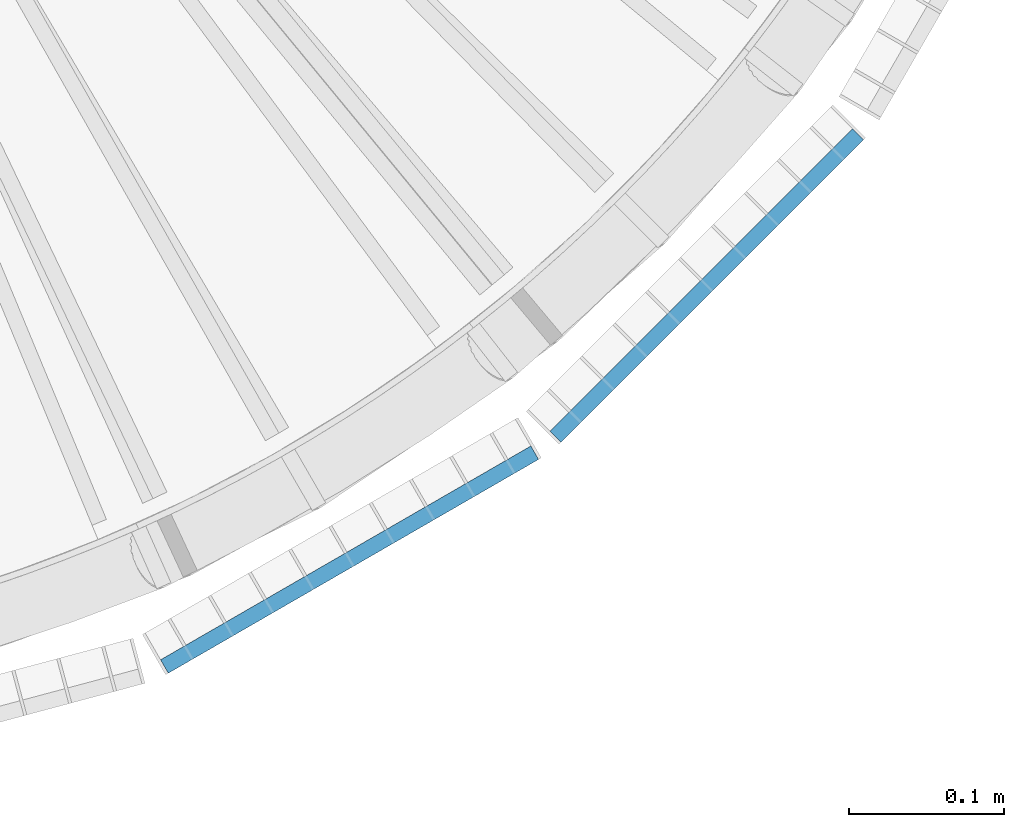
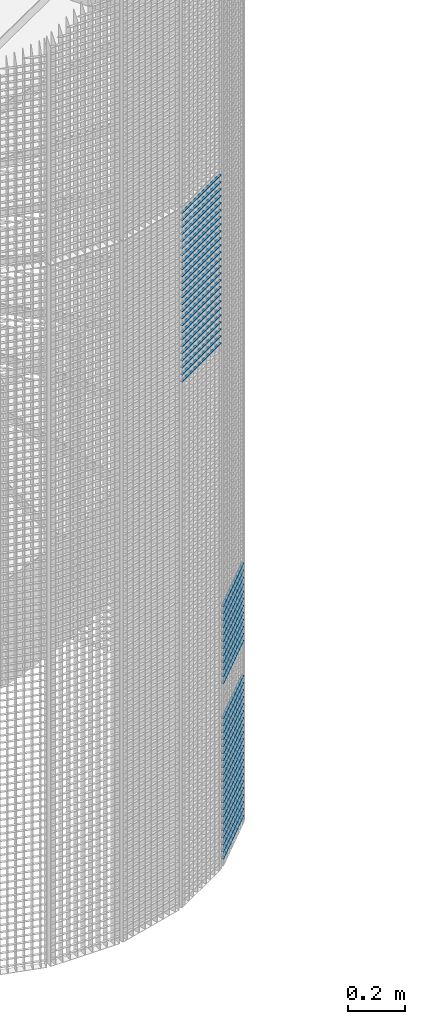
# One storey, part 268 of 1183: 58 beams, 2 elements without a shape of their own.
"""IFC2X3 building model written with IfcOpenShell, lengths in millimetres."""

from ifc_helpers import new_model, si_unit, frame, origin_with_axes, origin_2d_with_axis, place, context, subcontext, project, spatial, rectangle, extrude, material, type_object, element, aggregate, save


model = new_model("IFC2X3")

# Units and contexts
model_context = context("Model", 3, precision=1e-05, world=origin_with_axes())
body_context = subcontext(model_context, "Body", "Model", "MODEL_VIEW")
ifc_project = project(units=[si_unit("LENGTHUNIT", "METRE", prefix="MILLI"), si_unit("AREAUNIT", "SQUARE_METRE"), si_unit("VOLUMEUNIT", "CUBIC_METRE"), si_unit("MASSUNIT", "GRAM", prefix="KILO"), si_unit("TIMEUNIT", "SECOND"), si_unit("PLANEANGLEUNIT", "RADIAN"), si_unit("SOLIDANGLEUNIT", "STERADIAN"), si_unit("THERMODYNAMICTEMPERATUREUNIT", "DEGREE_CELSIUS"), si_unit("LUMINOUSINTENSITYUNIT", "LUMEN")], contexts=[model_context])

# Site, building, storey
site_placement = place(None, origin_with_axes())
site = spatial("IfcSite", under=ifc_project, at=site_placement, Name="Undefined", CompositionType="ELEMENT")
building_placement = place(site_placement, origin_with_axes())
building = spatial("IfcBuilding", under=site, at=building_placement, Name="Undefined", CompositionType="ELEMENT")
storey_placement = place(building_placement, origin_with_axes())
storey = spatial("IfcBuildingStorey", under=building, at=storey_placement, Name="Undefined", CompositionType="ELEMENT", Elevation=0.0)

# Assembly, beams
assembly_1_placement = place(storey_placement, origin_with_axes())
assembly_1 = element("IfcElementAssembly", 1, at=assembly_1_placement, inside=storey, Name="BORDURE", AssemblyPlace="NOTDEFINED", PredefinedType="NOTDEFINED")
ifc_material = material(Name="STEEL/S235JR")
beam_type = type_object("IfcBeamType", Name="PL2*10", PredefinedType="NOTDEFINED")
beam_1_placement = place(assembly_1_placement, frame((689.771348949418, -884.927168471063, 629.999999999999), z_axis=(0.707106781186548, -0.707106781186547, 0.0), x_axis=(0.707106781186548, 0.707106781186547, 0.0)))
beam_1 = element("IfcBeam", 2, at=beam_1_placement, type_object=beam_type, material=ifc_material, Name="ENTRETOISE", context=body_context, shape_type="SweptSolid", body=[
    extrude(rectangle(XDim=2.0, YDim=10.0, at=origin_2d_with_axis()), frame((275.999999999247, 9.09494701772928e-13, 1.53210777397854e-14), z_axis=(-1.0, 0.0, 0.0), x_axis=(0.0, -1.0, 0.0)), (0.0, 0.0, 1.0), 276.0),
])
beam_2_placement = place(assembly_1_placement, frame((689.771348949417, -884.927168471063, 779.999999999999), z_axis=(0.707106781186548, -0.707106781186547, 0.0), x_axis=(0.707106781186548, 0.707106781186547, 0.0)))
beam_2 = element("IfcBeam", 3, at=beam_2_placement, type_object=beam_type, material=ifc_material, Name="ENTRETOISE", context=body_context, shape_type="SweptSolid", body=[
    extrude(rectangle(XDim=2.0, YDim=10.0, at=origin_2d_with_axis()), frame((275.999999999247, 9.09494701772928e-13, 1.53210777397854e-14), z_axis=(-1.0, 0.0, 0.0), x_axis=(0.0, -1.0, 0.0)), (0.0, 0.0, 1.0), 276.0),
])
beam_3_placement = place(assembly_1_placement, frame((689.771348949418, -884.927168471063, 599.999999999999), z_axis=(0.707106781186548, -0.707106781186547, 0.0), x_axis=(0.707106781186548, 0.707106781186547, 0.0)))
beam_3 = element("IfcBeam", 4, at=beam_3_placement, type_object=beam_type, material=ifc_material, Name="ENTRETOISE", context=body_context, shape_type="SweptSolid", body=[
    extrude(rectangle(XDim=2.0, YDim=10.0, at=origin_2d_with_axis()), frame((275.999999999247, 9.09494701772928e-13, 1.53210777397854e-14), z_axis=(-1.0, 0.0, 0.0), x_axis=(0.0, -1.0, 0.0)), (0.0, 0.0, 1.0), 276.0),
])
beam_4_placement = place(assembly_1_placement, frame((689.771348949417, -884.927168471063, 809.999999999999), z_axis=(0.707106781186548, -0.707106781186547, 0.0), x_axis=(0.707106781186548, 0.707106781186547, 0.0)))
beam_4 = element("IfcBeam", 5, at=beam_4_placement, type_object=beam_type, material=ifc_material, Name="ENTRETOISE", context=body_context, shape_type="SweptSolid", body=[
    extrude(rectangle(XDim=2.0, YDim=10.0, at=origin_2d_with_axis()), frame((275.999999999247, 9.09494701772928e-13, 1.53210777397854e-14), z_axis=(-1.0, 0.0, 0.0), x_axis=(0.0, -1.0, 0.0)), (0.0, 0.0, 1.0), 276.0),
])
beam_5_placement = place(assembly_1_placement, frame((689.771348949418, -884.927168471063, 569.999999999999), z_axis=(0.707106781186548, -0.707106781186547, 0.0), x_axis=(0.707106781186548, 0.707106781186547, 0.0)))
beam_5 = element("IfcBeam", 6, at=beam_5_placement, type_object=beam_type, material=ifc_material, Name="ENTRETOISE", context=body_context, shape_type="SweptSolid", body=[
    extrude(rectangle(XDim=2.0, YDim=10.0, at=origin_2d_with_axis()), frame((275.999999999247, 9.09494701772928e-13, 1.53210777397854e-14), z_axis=(-1.0, 0.0, 0.0), x_axis=(0.0, -1.0, 0.0)), (0.0, 0.0, 1.0), 276.0),
])
beam_6_placement = place(assembly_1_placement, frame((689.771348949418, -884.927168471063, 539.999999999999), z_axis=(0.707106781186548, -0.707106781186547, 0.0), x_axis=(0.707106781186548, 0.707106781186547, 0.0)))
beam_6 = element("IfcBeam", 7, at=beam_6_placement, type_object=beam_type, material=ifc_material, Name="ENTRETOISE", context=body_context, shape_type="SweptSolid", body=[
    extrude(rectangle(XDim=2.0, YDim=10.0, at=origin_2d_with_axis()), frame((275.999999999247, 9.09494701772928e-13, 1.53210777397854e-14), z_axis=(-1.0, 0.0, 0.0), x_axis=(0.0, -1.0, 0.0)), (0.0, 0.0, 1.0), 276.0),
])
beam_7_placement = place(assembly_1_placement, frame((689.771348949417, -884.927168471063, 839.999999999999), z_axis=(0.707106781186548, -0.707106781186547, 0.0), x_axis=(0.707106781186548, 0.707106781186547, 0.0)))
beam_7 = element("IfcBeam", 8, at=beam_7_placement, type_object=beam_type, material=ifc_material, Name="ENTRETOISE", context=body_context, shape_type="SweptSolid", body=[
    extrude(rectangle(XDim=2.0, YDim=10.0, at=origin_2d_with_axis()), frame((275.999999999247, 9.09494701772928e-13, 1.53210777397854e-14), z_axis=(-1.0, 0.0, 0.0), x_axis=(0.0, -1.0, 0.0)), (0.0, 0.0, 1.0), 276.0),
])
beam_8_placement = place(assembly_1_placement, frame((689.771348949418, -884.927168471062, 509.999999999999), z_axis=(0.707106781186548, -0.707106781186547, 0.0), x_axis=(0.707106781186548, 0.707106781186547, 0.0)))
beam_8 = element("IfcBeam", 9, at=beam_8_placement, type_object=beam_type, material=ifc_material, Name="ENTRETOISE", context=body_context, shape_type="SweptSolid", body=[
    extrude(rectangle(XDim=2.0, YDim=10.0, at=origin_2d_with_axis()), frame((275.999999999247, 9.09494701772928e-13, 1.53210777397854e-14), z_axis=(-1.0, 0.0, 0.0), x_axis=(0.0, -1.0, 0.0)), (0.0, 0.0, 1.0), 276.0),
])
beam_9_placement = place(assembly_1_placement, frame((689.771348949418, -884.927168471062, 479.999999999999), z_axis=(0.707106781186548, -0.707106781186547, 0.0), x_axis=(0.707106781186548, 0.707106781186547, 0.0)))
beam_9 = element("IfcBeam", 10, at=beam_9_placement, type_object=beam_type, material=ifc_material, Name="ENTRETOISE", context=body_context, shape_type="SweptSolid", body=[
    extrude(rectangle(XDim=2.0, YDim=10.0, at=origin_2d_with_axis()), frame((275.999999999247, 9.09494701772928e-13, 1.53210777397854e-14), z_axis=(-1.0, 0.0, 0.0), x_axis=(0.0, -1.0, 0.0)), (0.0, 0.0, 1.0), 276.0),
])
beam_10_placement = place(assembly_1_placement, frame((689.771348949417, -884.927168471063, 869.999999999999), z_axis=(0.707106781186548, -0.707106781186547, 0.0), x_axis=(0.707106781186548, 0.707106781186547, 0.0)))
beam_10 = element("IfcBeam", 11, at=beam_10_placement, type_object=beam_type, material=ifc_material, Name="ENTRETOISE", context=body_context, shape_type="SweptSolid", body=[
    extrude(rectangle(XDim=2.0, YDim=10.0, at=origin_2d_with_axis()), frame((275.999999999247, 9.09494701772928e-13, 1.53210777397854e-14), z_axis=(-1.0, 0.0, 0.0), x_axis=(0.0, -1.0, 0.0)), (0.0, 0.0, 1.0), 276.0),
])
beam_11_placement = place(assembly_1_placement, frame((689.771348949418, -884.927168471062, 449.999999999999), z_axis=(0.707106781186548, -0.707106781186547, 0.0), x_axis=(0.707106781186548, 0.707106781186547, 0.0)))
beam_11 = element("IfcBeam", 12, at=beam_11_placement, type_object=beam_type, material=ifc_material, Name="ENTRETOISE", context=body_context, shape_type="SweptSolid", body=[
    extrude(rectangle(XDim=2.0, YDim=10.0, at=origin_2d_with_axis()), frame((275.999999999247, 9.09494701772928e-13, 1.53210777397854e-14), z_axis=(-1.0, 0.0, 0.0), x_axis=(0.0, -1.0, 0.0)), (0.0, 0.0, 1.0), 276.0),
])
beam_12_placement = place(assembly_1_placement, frame((689.771348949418, -884.927168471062, 419.999999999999), z_axis=(0.707106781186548, -0.707106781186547, 0.0), x_axis=(0.707106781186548, 0.707106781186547, 0.0)))
beam_12 = element("IfcBeam", 13, at=beam_12_placement, type_object=beam_type, material=ifc_material, Name="ENTRETOISE", context=body_context, shape_type="SweptSolid", body=[
    extrude(rectangle(XDim=2.0, YDim=10.0, at=origin_2d_with_axis()), frame((275.999999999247, 9.09494701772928e-13, 1.53210777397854e-14), z_axis=(-1.0, 0.0, 0.0), x_axis=(0.0, -1.0, 0.0)), (0.0, 0.0, 1.0), 276.0),
])
beam_13_placement = place(assembly_1_placement, frame((689.771348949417, -884.927168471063, 899.999999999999), z_axis=(0.707106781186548, -0.707106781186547, 0.0), x_axis=(0.707106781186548, 0.707106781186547, 0.0)))
beam_13 = element("IfcBeam", 14, at=beam_13_placement, type_object=beam_type, material=ifc_material, Name="ENTRETOISE", context=body_context, shape_type="SweptSolid", body=[
    extrude(rectangle(XDim=2.0, YDim=10.0, at=origin_2d_with_axis()), frame((275.999999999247, 9.09494701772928e-13, 1.53210777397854e-14), z_axis=(-1.0, 0.0, 0.0), x_axis=(0.0, -1.0, 0.0)), (0.0, 0.0, 1.0), 276.0),
])
beam_14_placement = place(assembly_1_placement, frame((689.771348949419, -884.927168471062, 389.999999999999), z_axis=(0.707106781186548, -0.707106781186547, 0.0), x_axis=(0.707106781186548, 0.707106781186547, 0.0)))
beam_14 = element("IfcBeam", 15, at=beam_14_placement, type_object=beam_type, material=ifc_material, Name="ENTRETOISE", context=body_context, shape_type="SweptSolid", body=[
    extrude(rectangle(XDim=2.0, YDim=10.0, at=origin_2d_with_axis()), frame((275.999999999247, 9.09494701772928e-13, 1.53210777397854e-14), z_axis=(-1.0, 0.0, 0.0), x_axis=(0.0, -1.0, 0.0)), (0.0, 0.0, 1.0), 276.0),
])
beam_15_placement = place(assembly_1_placement, frame((689.771348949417, -884.927168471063, 929.999999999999), z_axis=(0.707106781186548, -0.707106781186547, 0.0), x_axis=(0.707106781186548, 0.707106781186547, 0.0)))
beam_15 = element("IfcBeam", 16, at=beam_15_placement, type_object=beam_type, material=ifc_material, Name="ENTRETOISE", context=body_context, shape_type="SweptSolid", body=[
    extrude(rectangle(XDim=2.0, YDim=10.0, at=origin_2d_with_axis()), frame((275.999999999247, 9.09494701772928e-13, 1.53210777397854e-14), z_axis=(-1.0, 0.0, 0.0), x_axis=(0.0, -1.0, 0.0)), (0.0, 0.0, 1.0), 276.0),
])
beam_16_placement = place(assembly_1_placement, frame((689.771348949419, -884.927168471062, 359.999999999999), z_axis=(0.707106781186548, -0.707106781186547, 0.0), x_axis=(0.707106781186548, 0.707106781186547, 0.0)))
beam_16 = element("IfcBeam", 17, at=beam_16_placement, type_object=beam_type, material=ifc_material, Name="ENTRETOISE", context=body_context, shape_type="SweptSolid", body=[
    extrude(rectangle(XDim=2.0, YDim=10.0, at=origin_2d_with_axis()), frame((275.999999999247, 9.09494701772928e-13, 1.53210777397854e-14), z_axis=(-1.0, 0.0, 0.0), x_axis=(0.0, -1.0, 0.0)), (0.0, 0.0, 1.0), 276.0),
])
beam_17_placement = place(assembly_1_placement, frame((689.771348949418, -884.927168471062, 329.999999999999), z_axis=(0.707106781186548, -0.707106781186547, 0.0), x_axis=(0.707106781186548, 0.707106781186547, 0.0)))
beam_17 = element("IfcBeam", 18, at=beam_17_placement, type_object=beam_type, material=ifc_material, Name="ENTRETOISE", context=body_context, shape_type="SweptSolid", body=[
    extrude(rectangle(XDim=2.0, YDim=10.0, at=origin_2d_with_axis()), frame((275.999999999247, 9.09494701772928e-13, 1.53210777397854e-14), z_axis=(-1.0, 0.0, 0.0), x_axis=(0.0, -1.0, 0.0)), (0.0, 0.0, 1.0), 276.0),
])
beam_18_placement = place(assembly_1_placement, frame((689.771348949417, -884.927168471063, 959.999999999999), z_axis=(0.707106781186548, -0.707106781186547, 0.0), x_axis=(0.707106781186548, 0.707106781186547, 0.0)))
beam_18 = element("IfcBeam", 19, at=beam_18_placement, type_object=beam_type, material=ifc_material, Name="ENTRETOISE", context=body_context, shape_type="SweptSolid", body=[
    extrude(rectangle(XDim=2.0, YDim=10.0, at=origin_2d_with_axis()), frame((275.999999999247, 9.09494701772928e-13, 1.53210777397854e-14), z_axis=(-1.0, 0.0, 0.0), x_axis=(0.0, -1.0, 0.0)), (0.0, 0.0, 1.0), 276.0),
])
beam_19_placement = place(assembly_1_placement, frame((689.771348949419, -884.927168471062, 299.999999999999), z_axis=(0.707106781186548, -0.707106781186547, 0.0), x_axis=(0.707106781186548, 0.707106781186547, 0.0)))
beam_19 = element("IfcBeam", 20, at=beam_19_placement, type_object=beam_type, material=ifc_material, Name="ENTRETOISE", context=body_context, shape_type="SweptSolid", body=[
    extrude(rectangle(XDim=2.0, YDim=10.0, at=origin_2d_with_axis()), frame((275.999999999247, 9.09494701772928e-13, 1.53210777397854e-14), z_axis=(-1.0, 0.0, 0.0), x_axis=(0.0, -1.0, 0.0)), (0.0, 0.0, 1.0), 276.0),
])
beam_20_placement = place(assembly_1_placement, frame((689.771348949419, -884.927168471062, 269.999999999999), z_axis=(0.707106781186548, -0.707106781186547, 0.0), x_axis=(0.707106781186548, 0.707106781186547, 0.0)))
beam_20 = element("IfcBeam", 21, at=beam_20_placement, type_object=beam_type, material=ifc_material, Name="ENTRETOISE", context=body_context, shape_type="SweptSolid", body=[
    extrude(rectangle(XDim=2.0, YDim=10.0, at=origin_2d_with_axis()), frame((275.999999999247, 9.09494701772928e-13, 1.53210777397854e-14), z_axis=(-1.0, 0.0, 0.0), x_axis=(0.0, -1.0, 0.0)), (0.0, 0.0, 1.0), 276.0),
])
beam_21_placement = place(assembly_1_placement, frame((689.771348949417, -884.927168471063, 989.999999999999), z_axis=(0.707106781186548, -0.707106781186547, 0.0), x_axis=(0.707106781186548, 0.707106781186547, 0.0)))
beam_21 = element("IfcBeam", 22, at=beam_21_placement, type_object=beam_type, material=ifc_material, Name="ENTRETOISE", context=body_context, shape_type="SweptSolid", body=[
    extrude(rectangle(XDim=2.0, YDim=10.0, at=origin_2d_with_axis()), frame((275.999999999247, 9.09494701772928e-13, 1.53210777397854e-14), z_axis=(-1.0, 0.0, 0.0), x_axis=(0.0, -1.0, 0.0)), (0.0, 0.0, 1.0), 276.0),
])
beam_22_placement = place(assembly_1_placement, frame((689.771348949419, -884.927168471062, 239.999999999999), z_axis=(0.707106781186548, -0.707106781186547, 0.0), x_axis=(0.707106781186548, 0.707106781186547, 0.0)))
beam_22 = element("IfcBeam", 23, at=beam_22_placement, type_object=beam_type, material=ifc_material, Name="ENTRETOISE", context=body_context, shape_type="SweptSolid", body=[
    extrude(rectangle(XDim=2.0, YDim=10.0, at=origin_2d_with_axis()), frame((275.999999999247, 9.09494701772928e-13, 1.53210777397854e-14), z_axis=(-1.0, 0.0, 0.0), x_axis=(0.0, -1.0, 0.0)), (0.0, 0.0, 1.0), 276.0),
])
beam_23_placement = place(assembly_1_placement, frame((689.771348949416, -884.927168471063, 1020.0), z_axis=(0.707106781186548, -0.707106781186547, 0.0), x_axis=(0.707106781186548, 0.707106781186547, 0.0)))
beam_23 = element("IfcBeam", 24, at=beam_23_placement, type_object=beam_type, material=ifc_material, Name="ENTRETOISE", context=body_context, shape_type="SweptSolid", body=[
    extrude(rectangle(XDim=2.0, YDim=10.0, at=origin_2d_with_axis()), frame((275.999999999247, 9.09494701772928e-13, 1.53210777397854e-14), z_axis=(-1.0, 0.0, 0.0), x_axis=(0.0, -1.0, 0.0)), (0.0, 0.0, 1.0), 276.0),
])
beam_24_placement = place(assembly_1_placement, frame((689.771348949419, -884.927168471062, 209.999999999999), z_axis=(0.707106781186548, -0.707106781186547, 0.0), x_axis=(0.707106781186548, 0.707106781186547, 0.0)))
beam_24 = element("IfcBeam", 25, at=beam_24_placement, type_object=beam_type, material=ifc_material, Name="ENTRETOISE", context=body_context, shape_type="SweptSolid", body=[
    extrude(rectangle(XDim=2.0, YDim=10.0, at=origin_2d_with_axis()), frame((275.999999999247, 9.09494701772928e-13, 1.53210777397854e-14), z_axis=(-1.0, 0.0, 0.0), x_axis=(0.0, -1.0, 0.0)), (0.0, 0.0, 1.0), 276.0),
])
beam_25_placement = place(assembly_1_placement, frame((689.771348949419, -884.927168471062, 179.999999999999), z_axis=(0.707106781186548, -0.707106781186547, 0.0), x_axis=(0.707106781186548, 0.707106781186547, 0.0)))
beam_25 = element("IfcBeam", 26, at=beam_25_placement, type_object=beam_type, material=ifc_material, Name="ENTRETOISE", context=body_context, shape_type="SweptSolid", body=[
    extrude(rectangle(XDim=2.0, YDim=10.0, at=origin_2d_with_axis()), frame((275.999999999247, 9.09494701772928e-13, 1.53210777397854e-14), z_axis=(-1.0, 0.0, 0.0), x_axis=(0.0, -1.0, 0.0)), (0.0, 0.0, 1.0), 276.0),
])
beam_26_placement = place(assembly_1_placement, frame((689.771348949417, -884.927168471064, 1050.0), z_axis=(0.707106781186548, -0.707106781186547, 0.0), x_axis=(0.707106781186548, 0.707106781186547, 0.0)))
beam_26 = element("IfcBeam", 27, at=beam_26_placement, type_object=beam_type, material=ifc_material, Name="ENTRETOISE", context=body_context, shape_type="SweptSolid", body=[
    extrude(rectangle(XDim=2.0, YDim=10.0, at=origin_2d_with_axis()), frame((275.999999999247, 9.09494701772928e-13, 1.53210777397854e-14), z_axis=(-1.0, 0.0, 0.0), x_axis=(0.0, -1.0, 0.0)), (0.0, 0.0, 1.0), 276.0),
])
beam_27_placement = place(assembly_1_placement, frame((689.771348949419, -884.927168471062, 149.999999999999), z_axis=(0.707106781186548, -0.707106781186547, 0.0), x_axis=(0.707106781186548, 0.707106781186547, 0.0)))
beam_27 = element("IfcBeam", 28, at=beam_27_placement, type_object=beam_type, material=ifc_material, Name="ENTRETOISE", context=body_context, shape_type="SweptSolid", body=[
    extrude(rectangle(XDim=2.0, YDim=10.0, at=origin_2d_with_axis()), frame((275.999999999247, 9.09494701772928e-13, 1.53210777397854e-14), z_axis=(-1.0, 0.0, 0.0), x_axis=(0.0, -1.0, 0.0)), (0.0, 0.0, 1.0), 276.0),
])
beam_28_placement = place(assembly_1_placement, frame((689.771348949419, -884.927168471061, 119.999999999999), z_axis=(0.707106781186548, -0.707106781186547, 0.0), x_axis=(0.707106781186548, 0.707106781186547, 0.0)))
beam_28 = element("IfcBeam", 29, at=beam_28_placement, type_object=beam_type, material=ifc_material, Name="ENTRETOISE", context=body_context, shape_type="SweptSolid", body=[
    extrude(rectangle(XDim=2.0, YDim=10.0, at=origin_2d_with_axis()), frame((275.999999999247, 9.09494701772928e-13, 1.53210777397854e-14), z_axis=(-1.0, 0.0, 0.0), x_axis=(0.0, -1.0, 0.0)), (0.0, 0.0, 1.0), 276.0),
])
beam_29_placement = place(assembly_1_placement, frame((689.771348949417, -884.927168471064, 1080.0), z_axis=(0.707106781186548, -0.707106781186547, 0.0), x_axis=(0.707106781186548, 0.707106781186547, 0.0)))
beam_29 = element("IfcBeam", 30, at=beam_29_placement, type_object=beam_type, material=ifc_material, Name="ENTRETOISE", context=body_context, shape_type="SweptSolid", body=[
    extrude(rectangle(XDim=2.0, YDim=10.0, at=origin_2d_with_axis()), frame((275.999999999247, 9.09494701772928e-13, 1.53210777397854e-14), z_axis=(-1.0, 0.0, 0.0), x_axis=(0.0, -1.0, 0.0)), (0.0, 0.0, 1.0), 276.0),
])
beam_30_placement = place(assembly_1_placement, frame((689.771348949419, -884.927168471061, 89.9999999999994), z_axis=(0.707106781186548, -0.707106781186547, 0.0), x_axis=(0.707106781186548, 0.707106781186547, 0.0)))
beam_30 = element("IfcBeam", 31, at=beam_30_placement, type_object=beam_type, material=ifc_material, Name="ENTRETOISE", context=body_context, shape_type="SweptSolid", body=[
    extrude(rectangle(XDim=2.0, YDim=10.0, at=origin_2d_with_axis()), frame((275.999999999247, 9.09494701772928e-13, 1.53210777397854e-14), z_axis=(-1.0, 0.0, 0.0), x_axis=(0.0, -1.0, 0.0)), (0.0, 0.0, 1.0), 276.0),
])
beam_31_placement = place(assembly_1_placement, frame((689.771348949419, -884.927168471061, 59.9999999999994), z_axis=(0.707106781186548, -0.707106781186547, 0.0), x_axis=(0.707106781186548, 0.707106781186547, 0.0)))
beam_31 = element("IfcBeam", 32, at=beam_31_placement, type_object=beam_type, material=ifc_material, Name="ENTRETOISE", context=body_context, shape_type="SweptSolid", body=[
    extrude(rectangle(XDim=2.0, YDim=10.0, at=origin_2d_with_axis()), frame((275.999999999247, 9.09494701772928e-13, 1.53210777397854e-14), z_axis=(-1.0, 0.0, 0.0), x_axis=(0.0, -1.0, 0.0)), (0.0, 0.0, 1.0), 276.0),
])
beam_32_placement = place(assembly_1_placement, frame((689.771348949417, -884.927168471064, 1110.0), z_axis=(0.707106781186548, -0.707106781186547, 0.0), x_axis=(0.707106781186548, 0.707106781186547, 0.0)))
beam_32 = element("IfcBeam", 33, at=beam_32_placement, type_object=beam_type, material=ifc_material, Name="ENTRETOISE", context=body_context, shape_type="SweptSolid", body=[
    extrude(rectangle(XDim=2.0, YDim=10.0, at=origin_2d_with_axis()), frame((275.999999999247, 9.09494701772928e-13, 1.53210777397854e-14), z_axis=(-1.0, 0.0, 0.0), x_axis=(0.0, -1.0, 0.0)), (0.0, 0.0, 1.0), 276.0),
])
beam_33_placement = place(assembly_1_placement, frame((689.77134894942, -884.92716847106, 29.9999999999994), z_axis=(0.707106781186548, -0.707106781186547, 0.0), x_axis=(0.707106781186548, 0.707106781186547, 0.0)))
beam_33 = element("IfcBeam", 34, at=beam_33_placement, type_object=beam_type, material=ifc_material, Name="ENTRETOISE", context=body_context, shape_type="SweptSolid", body=[
    extrude(rectangle(XDim=2.0, YDim=10.0, at=origin_2d_with_axis()), frame((275.999999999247, 9.09494701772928e-13, 1.53210777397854e-14), z_axis=(-1.0, 0.0, 0.0), x_axis=(0.0, -1.0, 0.0)), (0.0, 0.0, 1.0), 276.0),
])
aggregate(assembly_1, [beam_1, beam_2, beam_3, beam_4, beam_5, beam_6, beam_7, beam_8, beam_9, beam_10, beam_11, beam_12, beam_13, beam_14, beam_15, beam_16, beam_17, beam_18, beam_19, beam_20, beam_21, beam_22, beam_23, beam_24, beam_25, beam_26, beam_27, beam_28, beam_29, beam_30, beam_31, beam_32, beam_33])

assembly_2_placement = place(storey_placement, origin_with_axes())
assembly_2 = element("IfcElementAssembly", 35, at=assembly_2_placement, inside=storey, Name="BORDURE", AssemblyPlace="NOTDEFINED", PredefinedType="NOTDEFINED")
beam_34_placement = place(assembly_2_placement, frame((437.231955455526, -1033.29996828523, 2970.0), z_axis=(0.499999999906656, -0.866025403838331, 0.0), x_axis=(0.866025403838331, 0.499999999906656, 0.0)))
beam_34 = element("IfcBeam", 36, at=beam_34_placement, type_object=beam_type, material=ifc_material, Name="ENTRETOISE", context=body_context, shape_type="SweptSolid", body=[
    extrude(rectangle(XDim=2.0, YDim=10.0, at=origin_2d_with_axis()), frame((275.999999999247, 9.09494701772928e-13, 1.53210777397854e-14), z_axis=(-1.0, 0.0, 0.0), x_axis=(0.0, -1.0, 0.0)), (0.0, 0.0, 1.0), 276.0),
])
beam_35_placement = place(assembly_2_placement, frame((437.231955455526, -1033.29996828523, 2940.0), z_axis=(0.499999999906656, -0.866025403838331, 0.0), x_axis=(0.866025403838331, 0.499999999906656, 0.0)))
beam_35 = element("IfcBeam", 37, at=beam_35_placement, type_object=beam_type, material=ifc_material, Name="ENTRETOISE", context=body_context, shape_type="SweptSolid", body=[
    extrude(rectangle(XDim=2.0, YDim=10.0, at=origin_2d_with_axis()), frame((275.999999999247, 9.09494701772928e-13, 1.53210777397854e-14), z_axis=(-1.0, 0.0, 0.0), x_axis=(0.0, -1.0, 0.0)), (0.0, 0.0, 1.0), 276.0),
])
beam_36_placement = place(assembly_2_placement, frame((437.231955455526, -1033.29996828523, 2910.0), z_axis=(0.499999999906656, -0.866025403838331, 0.0), x_axis=(0.866025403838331, 0.499999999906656, 0.0)))
beam_36 = element("IfcBeam", 38, at=beam_36_placement, type_object=beam_type, material=ifc_material, Name="ENTRETOISE", context=body_context, shape_type="SweptSolid", body=[
    extrude(rectangle(XDim=2.0, YDim=10.0, at=origin_2d_with_axis()), frame((275.999999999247, 9.09494701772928e-13, 1.53210777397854e-14), z_axis=(-1.0, 0.0, 0.0), x_axis=(0.0, -1.0, 0.0)), (0.0, 0.0, 1.0), 276.0),
])
beam_37_placement = place(assembly_2_placement, frame((437.231955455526, -1033.29996828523, 2880.0), z_axis=(0.499999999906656, -0.866025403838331, 0.0), x_axis=(0.866025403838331, 0.499999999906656, 0.0)))
beam_37 = element("IfcBeam", 39, at=beam_37_placement, type_object=beam_type, material=ifc_material, Name="ENTRETOISE", context=body_context, shape_type="SweptSolid", body=[
    extrude(rectangle(XDim=2.0, YDim=10.0, at=origin_2d_with_axis()), frame((275.999999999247, 9.09494701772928e-13, 1.53210777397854e-14), z_axis=(-1.0, 0.0, 0.0), x_axis=(0.0, -1.0, 0.0)), (0.0, 0.0, 1.0), 276.0),
])
beam_38_placement = place(assembly_2_placement, frame((437.231955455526, -1033.29996828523, 2850.0), z_axis=(0.499999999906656, -0.866025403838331, 0.0), x_axis=(0.866025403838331, 0.499999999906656, 0.0)))
beam_38 = element("IfcBeam", 40, at=beam_38_placement, type_object=beam_type, material=ifc_material, Name="ENTRETOISE", context=body_context, shape_type="SweptSolid", body=[
    extrude(rectangle(XDim=2.0, YDim=10.0, at=origin_2d_with_axis()), frame((275.999999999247, 9.09494701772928e-13, 1.53210777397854e-14), z_axis=(-1.0, 0.0, 0.0), x_axis=(0.0, -1.0, 0.0)), (0.0, 0.0, 1.0), 276.0),
])
beam_39_placement = place(assembly_2_placement, frame((437.231955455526, -1033.29996828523, 2820.0), z_axis=(0.499999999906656, -0.866025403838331, 0.0), x_axis=(0.866025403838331, 0.499999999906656, 0.0)))
beam_39 = element("IfcBeam", 41, at=beam_39_placement, type_object=beam_type, material=ifc_material, Name="ENTRETOISE", context=body_context, shape_type="SweptSolid", body=[
    extrude(rectangle(XDim=2.0, YDim=10.0, at=origin_2d_with_axis()), frame((275.999999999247, 9.09494701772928e-13, 1.53210777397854e-14), z_axis=(-1.0, 0.0, 0.0), x_axis=(0.0, -1.0, 0.0)), (0.0, 0.0, 1.0), 276.0),
])
beam_40_placement = place(assembly_2_placement, frame((437.231955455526, -1033.29996828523, 2790.0), z_axis=(0.499999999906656, -0.866025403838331, 0.0), x_axis=(0.866025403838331, 0.499999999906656, 0.0)))
beam_40 = element("IfcBeam", 42, at=beam_40_placement, type_object=beam_type, material=ifc_material, Name="ENTRETOISE", context=body_context, shape_type="SweptSolid", body=[
    extrude(rectangle(XDim=2.0, YDim=10.0, at=origin_2d_with_axis()), frame((275.999999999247, 9.09494701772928e-13, 1.53210777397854e-14), z_axis=(-1.0, 0.0, 0.0), x_axis=(0.0, -1.0, 0.0)), (0.0, 0.0, 1.0), 276.0),
])
beam_41_placement = place(assembly_2_placement, frame((437.231955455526, -1033.29996828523, 2760.0), z_axis=(0.499999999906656, -0.866025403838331, 0.0), x_axis=(0.866025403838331, 0.499999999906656, 0.0)))
beam_41 = element("IfcBeam", 43, at=beam_41_placement, type_object=beam_type, material=ifc_material, Name="ENTRETOISE", context=body_context, shape_type="SweptSolid", body=[
    extrude(rectangle(XDim=2.0, YDim=10.0, at=origin_2d_with_axis()), frame((275.999999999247, 9.09494701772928e-13, 1.53210777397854e-14), z_axis=(-1.0, 0.0, 0.0), x_axis=(0.0, -1.0, 0.0)), (0.0, 0.0, 1.0), 276.0),
])
beam_42_placement = place(assembly_2_placement, frame((437.231955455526, -1033.29996828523, 2730.0), z_axis=(0.499999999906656, -0.866025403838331, 0.0), x_axis=(0.866025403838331, 0.499999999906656, 0.0)))
beam_42 = element("IfcBeam", 44, at=beam_42_placement, type_object=beam_type, material=ifc_material, Name="ENTRETOISE", context=body_context, shape_type="SweptSolid", body=[
    extrude(rectangle(XDim=2.0, YDim=10.0, at=origin_2d_with_axis()), frame((275.999999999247, 9.09494701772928e-13, 1.53210777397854e-14), z_axis=(-1.0, 0.0, 0.0), x_axis=(0.0, -1.0, 0.0)), (0.0, 0.0, 1.0), 276.0),
])
beam_43_placement = place(assembly_2_placement, frame((437.231955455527, -1033.29996828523, 2700.0), z_axis=(0.499999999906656, -0.866025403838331, 0.0), x_axis=(0.866025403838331, 0.499999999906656, 0.0)))
beam_43 = element("IfcBeam", 45, at=beam_43_placement, type_object=beam_type, material=ifc_material, Name="ENTRETOISE", context=body_context, shape_type="SweptSolid", body=[
    extrude(rectangle(XDim=2.0, YDim=10.0, at=origin_2d_with_axis()), frame((275.999999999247, 9.09494701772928e-13, 1.53210777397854e-14), z_axis=(-1.0, 0.0, 0.0), x_axis=(0.0, -1.0, 0.0)), (0.0, 0.0, 1.0), 276.0),
])
beam_44_placement = place(assembly_2_placement, frame((437.231955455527, -1033.29996828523, 2670.0), z_axis=(0.499999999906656, -0.866025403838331, 0.0), x_axis=(0.866025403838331, 0.499999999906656, 0.0)))
beam_44 = element("IfcBeam", 46, at=beam_44_placement, type_object=beam_type, material=ifc_material, Name="ENTRETOISE", context=body_context, shape_type="SweptSolid", body=[
    extrude(rectangle(XDim=2.0, YDim=10.0, at=origin_2d_with_axis()), frame((275.999999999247, 9.09494701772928e-13, 1.53210777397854e-14), z_axis=(-1.0, 0.0, 0.0), x_axis=(0.0, -1.0, 0.0)), (0.0, 0.0, 1.0), 276.0),
])
beam_45_placement = place(assembly_2_placement, frame((437.231955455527, -1033.29996828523, 2640.0), z_axis=(0.499999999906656, -0.866025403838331, 0.0), x_axis=(0.866025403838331, 0.499999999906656, 0.0)))
beam_45 = element("IfcBeam", 47, at=beam_45_placement, type_object=beam_type, material=ifc_material, Name="ENTRETOISE", context=body_context, shape_type="SweptSolid", body=[
    extrude(rectangle(XDim=2.0, YDim=10.0, at=origin_2d_with_axis()), frame((275.999999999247, 9.09494701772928e-13, 1.53210777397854e-14), z_axis=(-1.0, 0.0, 0.0), x_axis=(0.0, -1.0, 0.0)), (0.0, 0.0, 1.0), 276.0),
])
beam_46_placement = place(assembly_2_placement, frame((437.231955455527, -1033.29996828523, 2610.0), z_axis=(0.499999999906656, -0.866025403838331, 0.0), x_axis=(0.866025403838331, 0.499999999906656, 0.0)))
beam_46 = element("IfcBeam", 48, at=beam_46_placement, type_object=beam_type, material=ifc_material, Name="ENTRETOISE", context=body_context, shape_type="SweptSolid", body=[
    extrude(rectangle(XDim=2.0, YDim=10.0, at=origin_2d_with_axis()), frame((275.999999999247, 9.09494701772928e-13, 1.53210777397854e-14), z_axis=(-1.0, 0.0, 0.0), x_axis=(0.0, -1.0, 0.0)), (0.0, 0.0, 1.0), 276.0),
])
beam_47_placement = place(assembly_2_placement, frame((437.231955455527, -1033.29996828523, 2580.0), z_axis=(0.499999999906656, -0.866025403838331, 0.0), x_axis=(0.866025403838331, 0.499999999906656, 0.0)))
beam_47 = element("IfcBeam", 49, at=beam_47_placement, type_object=beam_type, material=ifc_material, Name="ENTRETOISE", context=body_context, shape_type="SweptSolid", body=[
    extrude(rectangle(XDim=2.0, YDim=10.0, at=origin_2d_with_axis()), frame((275.999999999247, 9.09494701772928e-13, 1.53210777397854e-14), z_axis=(-1.0, 0.0, 0.0), x_axis=(0.0, -1.0, 0.0)), (0.0, 0.0, 1.0), 276.0),
])
beam_48_placement = place(assembly_2_placement, frame((437.231955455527, -1033.29996828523, 2550.0), z_axis=(0.499999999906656, -0.866025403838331, 0.0), x_axis=(0.866025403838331, 0.499999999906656, 0.0)))
beam_48 = element("IfcBeam", 50, at=beam_48_placement, type_object=beam_type, material=ifc_material, Name="ENTRETOISE", context=body_context, shape_type="SweptSolid", body=[
    extrude(rectangle(XDim=2.0, YDim=10.0, at=origin_2d_with_axis()), frame((275.999999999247, 9.09494701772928e-13, 1.53210777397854e-14), z_axis=(-1.0, 0.0, 0.0), x_axis=(0.0, -1.0, 0.0)), (0.0, 0.0, 1.0), 276.0),
])
beam_49_placement = place(assembly_2_placement, frame((437.231955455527, -1033.29996828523, 2520.0), z_axis=(0.499999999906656, -0.866025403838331, 0.0), x_axis=(0.866025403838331, 0.499999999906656, 0.0)))
beam_49 = element("IfcBeam", 51, at=beam_49_placement, type_object=beam_type, material=ifc_material, Name="ENTRETOISE", context=body_context, shape_type="SweptSolid", body=[
    extrude(rectangle(XDim=2.0, YDim=10.0, at=origin_2d_with_axis()), frame((275.999999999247, 9.09494701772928e-13, 1.53210777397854e-14), z_axis=(-1.0, 0.0, 0.0), x_axis=(0.0, -1.0, 0.0)), (0.0, 0.0, 1.0), 276.0),
])
beam_50_placement = place(assembly_2_placement, frame((437.231955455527, -1033.29996828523, 2490.0), z_axis=(0.499999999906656, -0.866025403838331, 0.0), x_axis=(0.866025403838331, 0.499999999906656, 0.0)))
beam_50 = element("IfcBeam", 52, at=beam_50_placement, type_object=beam_type, material=ifc_material, Name="ENTRETOISE", context=body_context, shape_type="SweptSolid", body=[
    extrude(rectangle(XDim=2.0, YDim=10.0, at=origin_2d_with_axis()), frame((275.999999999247, 9.09494701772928e-13, 1.53210777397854e-14), z_axis=(-1.0, 0.0, 0.0), x_axis=(0.0, -1.0, 0.0)), (0.0, 0.0, 1.0), 276.0),
])
beam_51_placement = place(assembly_2_placement, frame((437.231955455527, -1033.29996828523, 2460.0), z_axis=(0.499999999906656, -0.866025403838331, 0.0), x_axis=(0.866025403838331, 0.499999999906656, 0.0)))
beam_51 = element("IfcBeam", 53, at=beam_51_placement, type_object=beam_type, material=ifc_material, Name="ENTRETOISE", context=body_context, shape_type="SweptSolid", body=[
    extrude(rectangle(XDim=2.0, YDim=10.0, at=origin_2d_with_axis()), frame((275.999999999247, 9.09494701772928e-13, 1.53210777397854e-14), z_axis=(-1.0, 0.0, 0.0), x_axis=(0.0, -1.0, 0.0)), (0.0, 0.0, 1.0), 276.0),
])
beam_52_placement = place(assembly_2_placement, frame((437.231955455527, -1033.29996828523, 2430.0), z_axis=(0.499999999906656, -0.866025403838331, 0.0), x_axis=(0.866025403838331, 0.499999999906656, 0.0)))
beam_52 = element("IfcBeam", 54, at=beam_52_placement, type_object=beam_type, material=ifc_material, Name="ENTRETOISE", context=body_context, shape_type="SweptSolid", body=[
    extrude(rectangle(XDim=2.0, YDim=10.0, at=origin_2d_with_axis()), frame((275.999999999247, 9.09494701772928e-13, 1.53210777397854e-14), z_axis=(-1.0, 0.0, 0.0), x_axis=(0.0, -1.0, 0.0)), (0.0, 0.0, 1.0), 276.0),
])
beam_53_placement = place(assembly_2_placement, frame((437.231955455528, -1033.29996828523, 2400.0), z_axis=(0.499999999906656, -0.866025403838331, 0.0), x_axis=(0.866025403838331, 0.499999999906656, 0.0)))
beam_53 = element("IfcBeam", 55, at=beam_53_placement, type_object=beam_type, material=ifc_material, Name="ENTRETOISE", context=body_context, shape_type="SweptSolid", body=[
    extrude(rectangle(XDim=2.0, YDim=10.0, at=origin_2d_with_axis()), frame((275.999999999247, 9.09494701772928e-13, 1.53210777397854e-14), z_axis=(-1.0, 0.0, 0.0), x_axis=(0.0, -1.0, 0.0)), (0.0, 0.0, 1.0), 276.0),
])
beam_54_placement = place(assembly_2_placement, frame((437.231955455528, -1033.29996828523, 2370.0), z_axis=(0.499999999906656, -0.866025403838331, 0.0), x_axis=(0.866025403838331, 0.499999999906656, 0.0)))
beam_54 = element("IfcBeam", 56, at=beam_54_placement, type_object=beam_type, material=ifc_material, Name="ENTRETOISE", context=body_context, shape_type="SweptSolid", body=[
    extrude(rectangle(XDim=2.0, YDim=10.0, at=origin_2d_with_axis()), frame((275.999999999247, 9.09494701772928e-13, 1.53210777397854e-14), z_axis=(-1.0, 0.0, 0.0), x_axis=(0.0, -1.0, 0.0)), (0.0, 0.0, 1.0), 276.0),
])
beam_55_placement = place(assembly_2_placement, frame((437.231955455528, -1033.29996828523, 2340.0), z_axis=(0.499999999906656, -0.866025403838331, 0.0), x_axis=(0.866025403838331, 0.499999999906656, 0.0)))
beam_55 = element("IfcBeam", 57, at=beam_55_placement, type_object=beam_type, material=ifc_material, Name="ENTRETOISE", context=body_context, shape_type="SweptSolid", body=[
    extrude(rectangle(XDim=2.0, YDim=10.0, at=origin_2d_with_axis()), frame((275.999999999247, 9.09494701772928e-13, 1.53210777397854e-14), z_axis=(-1.0, 0.0, 0.0), x_axis=(0.0, -1.0, 0.0)), (0.0, 0.0, 1.0), 276.0),
])
beam_56_placement = place(assembly_2_placement, frame((437.231955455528, -1033.29996828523, 2310.0), z_axis=(0.499999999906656, -0.866025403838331, 0.0), x_axis=(0.866025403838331, 0.499999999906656, 0.0)))
beam_56 = element("IfcBeam", 58, at=beam_56_placement, type_object=beam_type, material=ifc_material, Name="ENTRETOISE", context=body_context, shape_type="SweptSolid", body=[
    extrude(rectangle(XDim=2.0, YDim=10.0, at=origin_2d_with_axis()), frame((275.999999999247, 9.09494701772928e-13, 1.53210777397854e-14), z_axis=(-1.0, 0.0, 0.0), x_axis=(0.0, -1.0, 0.0)), (0.0, 0.0, 1.0), 276.0),
])
beam_57_placement = place(assembly_2_placement, frame((437.231955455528, -1033.29996828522, 2280.0), z_axis=(0.499999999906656, -0.866025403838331, 0.0), x_axis=(0.866025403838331, 0.499999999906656, 0.0)))
beam_57 = element("IfcBeam", 59, at=beam_57_placement, type_object=beam_type, material=ifc_material, Name="ENTRETOISE", context=body_context, shape_type="SweptSolid", body=[
    extrude(rectangle(XDim=2.0, YDim=10.0, at=origin_2d_with_axis()), frame((275.999999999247, 9.09494701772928e-13, 1.53210777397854e-14), z_axis=(-1.0, 0.0, 0.0), x_axis=(0.0, -1.0, 0.0)), (0.0, 0.0, 1.0), 276.0),
])
beam_58_placement = place(assembly_2_placement, frame((437.231955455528, -1033.29996828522, 2250.0), z_axis=(0.499999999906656, -0.866025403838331, 0.0), x_axis=(0.866025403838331, 0.499999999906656, 0.0)))
beam_58 = element("IfcBeam", 60, at=beam_58_placement, type_object=beam_type, material=ifc_material, Name="ENTRETOISE", context=body_context, shape_type="SweptSolid", body=[
    extrude(rectangle(XDim=2.0, YDim=10.0, at=origin_2d_with_axis()), frame((275.999999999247, 9.09494701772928e-13, 1.53210777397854e-14), z_axis=(-1.0, 0.0, 0.0), x_axis=(0.0, -1.0, 0.0)), (0.0, 0.0, 1.0), 276.0),
])
aggregate(assembly_2, [beam_34, beam_35, beam_36, beam_37, beam_38, beam_39, beam_40, beam_41, beam_42, beam_43, beam_44, beam_45, beam_46, beam_47, beam_48, beam_49, beam_50, beam_51, beam_52, beam_53, beam_54, beam_55, beam_56, beam_57, beam_58])

save(model, "model.ifc")
